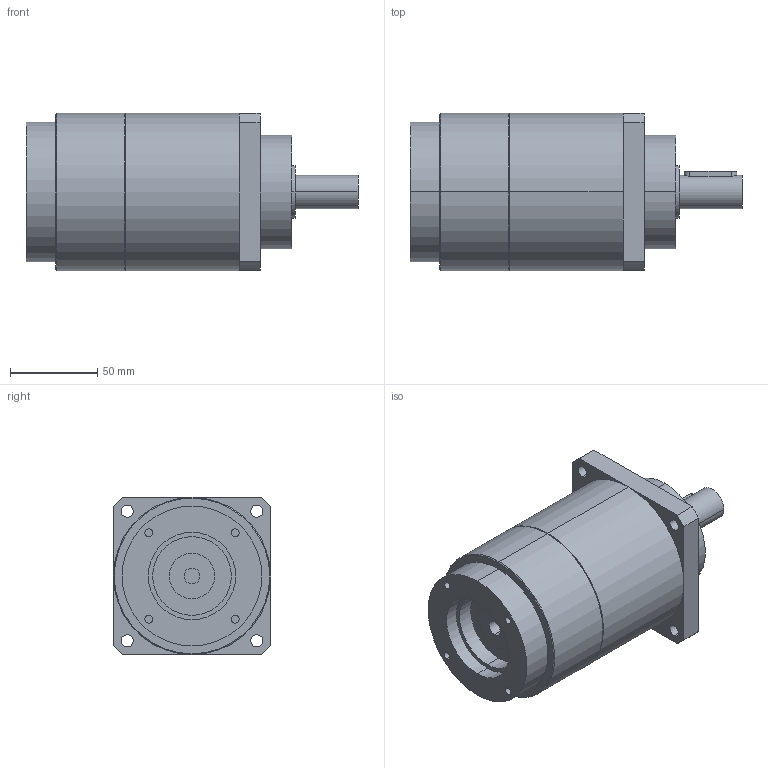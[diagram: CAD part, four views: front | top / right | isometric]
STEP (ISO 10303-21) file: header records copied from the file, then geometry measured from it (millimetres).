
FILE_DESCRIPTION(('CoCreate Modeling STEP Export'),'2;1');
FILE_NAME('GPT90_ig-9-12-16-20-25-28-35-40-50-70-100_19_B5T_9_P15.stp','2015-02-04T11:33:43',(''),(''),'CoCreate Modeling STEP processor for AP214 (Solid Model)','CoCreate Modeling 16.00C 25-Feb-2009 (C) Parametric Technology GmbH','');
FILE_SCHEMA(('AUTOMOTIVE_DESIGN { 1 0 10303 214 1 1 1 1 }'));
Length unit declared in the file: millimetre
Products named in the file (2): GPT90_ig-9-12-16-20-25-28-35-40-50-70-100_19_B5T_9_P15
Assembly tree (1 placements, depth 2):
  GPT90_ig-9-12-16-20-25-28-35-40-50-70-100_19_B5T_9_P15
    GPT90_ig-9-12-16-20-25-28-35-40-50-70-100_19_B5T_9_P15
Bounding box: 190 x 90 x 90 mm (x, y, z)
Volume: 887683.3 mm3; surface area: 66317.5 mm2
Topology: 1 solids, 1 shells, 75 faces, 190 edges, 131 vertices
Faces by surface type: cylinder 44, plane 27, cone 4
Entity records: 2388 total; most frequent: CARTESIAN_POINT 704, ORIENTED_EDGE 380, DIRECTION 282, EDGE_CURVE 190, VERTEX_POINT 131, AXIS2_PLACEMENT_3D 106, EDGE_LOOP 97, FACE_OUTER_BOUND 75
